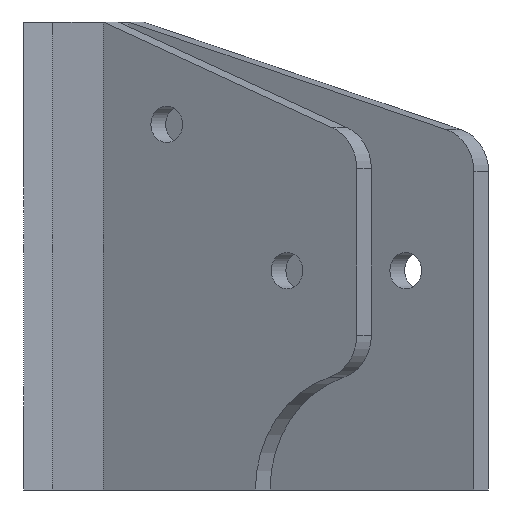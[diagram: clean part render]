
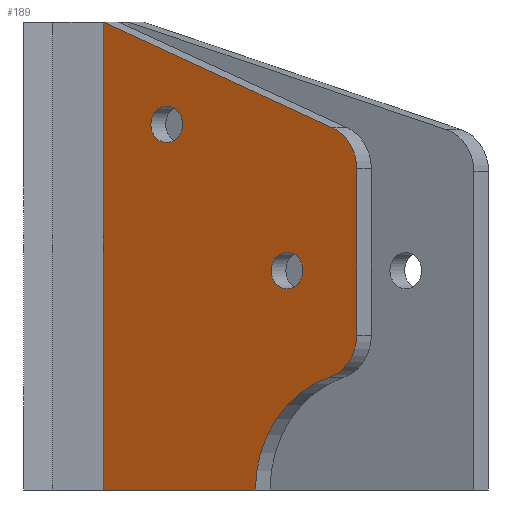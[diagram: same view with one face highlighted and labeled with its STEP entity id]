
A CAD part, left-side view. The second image highlights one B-rep face of the part: STEP entity #189.
In plain terms, the highlighted planar face has unit normal (-0.866, 0.5, 0).
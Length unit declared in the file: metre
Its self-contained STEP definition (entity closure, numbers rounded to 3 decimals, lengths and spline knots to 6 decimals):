
#189 = ADVANCED_FACE( '', ( #385, #386, #387 ), #388, .F. );
#385 = FACE_OUTER_BOUND( '', #588, .T. );
#386 = FACE_BOUND( '', #589, .T. );
#387 = FACE_BOUND( '', #590, .T. );
#388 = PLANE( '', #591 );
#588 = EDGE_LOOP( '', ( #1036, #1037, #1038, #1039, #1040, #1041, #1042, #1043 ) );
#589 = EDGE_LOOP( '', ( #1044, #1045 ) );
#590 = EDGE_LOOP( '', ( #1046, #1047 ) );
#591 = AXIS2_PLACEMENT_3D( '', #1048, #1049, #1050 );
#1036 = ORIENTED_EDGE( '', *, *, #1214, .T. );
#1037 = ORIENTED_EDGE( '', *, *, #1219, .T. );
#1038 = ORIENTED_EDGE( '', *, *, #1321, .T. );
#1039 = ORIENTED_EDGE( '', *, *, #1177, .T. );
#1040 = ORIENTED_EDGE( '', *, *, #1243, .T. );
#1041 = ORIENTED_EDGE( '', *, *, #1269, .T. );
#1042 = ORIENTED_EDGE( '', *, *, #1145, .T. );
#1043 = ORIENTED_EDGE( '', *, *, #1234, .T. );
#1044 = ORIENTED_EDGE( '', *, *, #1322, .F. );
#1045 = ORIENTED_EDGE( '', *, *, #1306, .F. );
#1046 = ORIENTED_EDGE( '', *, *, #1323, .F. );
#1047 = ORIENTED_EDGE( '', *, *, #1313, .F. );
#1048 = CARTESIAN_POINT( '', ( -0.094781, -0.035683, -0.010434 ) );
#1049 = DIRECTION( '', ( 0.866, -0.5, 0. ) );
#1050 = DIRECTION( '', ( 0., 0., -1. ) );
#1145 = EDGE_CURVE( '', #1347, #1348, #1349, .T. );
#1177 = EDGE_CURVE( '', #1401, #1402, #1403, .T. );
#1214 = EDGE_CURVE( '', #1465, #1463, #1466, .T. );
#1219 = EDGE_CURVE( '', #1463, #1471, #1473, .T. );
#1234 = EDGE_CURVE( '', #1348, #1465, #1493, .T. );
#1243 = EDGE_CURVE( '', #1402, #1506, #1508, .T. );
#1269 = EDGE_CURVE( '', #1506, #1347, #1547, .T. );
#1306 = EDGE_CURVE( '', #1595, #1597, #1598, .T. );
#1313 = EDGE_CURVE( '', #1604, #1606, #1607, .T. );
#1321 = EDGE_CURVE( '', #1471, #1401, #1615, .T. );
#1322 = EDGE_CURVE( '', #1597, #1595, #1616, .T. );
#1323 = EDGE_CURVE( '', #1606, #1604, #1617, .T. );
#1347 = VERTEX_POINT( '', #1645 );
#1348 = VERTEX_POINT( '', #1646 );
#1349 = LINE( '', #1647, #1648 );
#1401 = VERTEX_POINT( '', #1718 );
#1402 = VERTEX_POINT( '', #1719 );
#1403 = CIRCLE( '', #1720, 0.01905 );
#1463 = VERTEX_POINT( '', #1796 );
#1465 = VERTEX_POINT( '', #1799 );
#1466 = LINE( '', #1800, #1801 );
#1471 = VERTEX_POINT( '', #1808 );
#1473 = LINE( '', #1811, #1812 );
#1493 = LINE( '', #1843, #1844 );
#1506 = VERTEX_POINT( '', #1860 );
#1508 = LINE( '', #1863, #1864 );
#1547 = CIRCLE( '', #1914, 0.01905 );
#1595 = VERTEX_POINT( '', #1975 );
#1597 = VERTEX_POINT( '', #1978 );
#1598 = CIRCLE( '', #1979, 0.007938 );
#1604 = VERTEX_POINT( '', #1988 );
#1606 = VERTEX_POINT( '', #1991 );
#1607 = CIRCLE( '', #1992, 0.007938 );
#1615 = CIRCLE( '', #2003, 0.0508 );
#1616 = CIRCLE( '', #2004, 0.007938 );
#1617 = CIRCLE( '', #2005, 0.007938 );
#1645 = CARTESIAN_POINT( '', ( -0.088794, -0.025312, 0.146756 ) );
#1646 = CARTESIAN_POINT( '', ( -0.031281, 0.074303, 0.192766 ) );
#1647 = CARTESIAN_POINT( '', ( -0.094781, -0.035683, 0.141966 ) );
#1648 = VECTOR( '', #2025, 1. );
#1718 = CARTESIAN_POINT( '', ( -0.087854, -0.023684, 0.03844 ) );
#1719 = CARTESIAN_POINT( '', ( -0.094781, -0.035683, 0.056768 ) );
#1720 = AXIS2_PLACEMENT_3D( '', #2062, #2063, #2064 );
#1796 = CARTESIAN_POINT( '', ( -0.018581, 0.0963, -0.010439 ) );
#1799 = CARTESIAN_POINT( '', ( -0.018581, 0.0963, 0.192766 ) );
#1800 = CARTESIAN_POINT( '', ( -0.018581, 0.0963, 0.192766 ) );
#1801 = VECTOR( '', #2118, 1. );
#1808 = CARTESIAN_POINT( '', ( -0.069381, 0.008311, -0.010439 ) );
#1811 = CARTESIAN_POINT( '', ( -0.094781, -0.035683, -0.010439 ) );
#1812 = VECTOR( '', #2122, 1. );
#1843 = CARTESIAN_POINT( '', ( -0.031281, 0.074303, 0.192766 ) );
#1844 = VECTOR( '', #2134, 1. );
#1860 = CARTESIAN_POINT( '', ( -0.094781, -0.035683, 0.129068 ) );
#1863 = CARTESIAN_POINT( '', ( -0.094781, -0.035683, 0.040366 ) );
#1864 = VECTOR( '', #2145, 1. );
#1914 = AXIS2_PLACEMENT_3D( '', #2181, #2182, #2183 );
#1975 = CARTESIAN_POINT( '', ( -0.047156, 0.046806, 0.156253 ) );
#1978 = CARTESIAN_POINT( '', ( -0.047156, 0.046806, 0.140378 ) );
#1979 = AXIS2_PLACEMENT_3D( '', #2237, #2238, #2239 );
#1988 = CARTESIAN_POINT( '', ( -0.077319, -0.005437, 0.092753 ) );
#1991 = CARTESIAN_POINT( '', ( -0.077319, -0.005437, 0.076878 ) );
#1992 = AXIS2_PLACEMENT_3D( '', #2244, #2245, #2246 );
#2003 = AXIS2_PLACEMENT_3D( '', #2250, #2251, #2252 );
#2004 = AXIS2_PLACEMENT_3D( '', #2253, #2254, #2255 );
#2005 = AXIS2_PLACEMENT_3D( '', #2256, #2257, #2258 );
#2025 = DIRECTION( '', ( 0.464, 0.804, 0.371 ) );
#2062 = CARTESIAN_POINT( '', ( -0.085256, -0.019185, 0.056768 ) );
#2063 = DIRECTION( '', ( -0.866, 0.5, 0. ) );
#2064 = DIRECTION( '', ( 0., 0., -1. ) );
#2118 = DIRECTION( '', ( 0., 0., -1. ) );
#2122 = DIRECTION( '', ( -0.5, -0.866, 0. ) );
#2134 = DIRECTION( '', ( 0.5, 0.866, 0. ) );
#2145 = DIRECTION( '', ( 0., 0., 1. ) );
#2181 = CARTESIAN_POINT( '', ( -0.085256, -0.019185, 0.129068 ) );
#2182 = DIRECTION( '', ( -0.866, 0.5, 0. ) );
#2183 = DIRECTION( '', ( 0., 0., -1. ) );
#2237 = CARTESIAN_POINT( '', ( -0.047156, 0.046806, 0.148316 ) );
#2238 = DIRECTION( '', ( -0.866, 0.5, 0. ) );
#2239 = DIRECTION( '', ( 0., 0., 1. ) );
#2244 = CARTESIAN_POINT( '', ( -0.077319, -0.005437, 0.084816 ) );
#2245 = DIRECTION( '', ( -0.866, 0.5, 0. ) );
#2246 = DIRECTION( '', ( 0., 0., 1. ) );
#2250 = CARTESIAN_POINT( '', ( -0.094781, -0.035683, -0.010434 ) );
#2251 = DIRECTION( '', ( 0.866, -0.5, 0. ) );
#2252 = DIRECTION( '', ( 0., 0., -1. ) );
#2253 = CARTESIAN_POINT( '', ( -0.047156, 0.046806, 0.148316 ) );
#2254 = DIRECTION( '', ( -0.866, 0.5, 0. ) );
#2255 = DIRECTION( '', ( 0., 0., 1. ) );
#2256 = CARTESIAN_POINT( '', ( -0.077319, -0.005437, 0.084816 ) );
#2257 = DIRECTION( '', ( -0.866, 0.5, 0. ) );
#2258 = DIRECTION( '', ( 0., 0., 1. ) );
